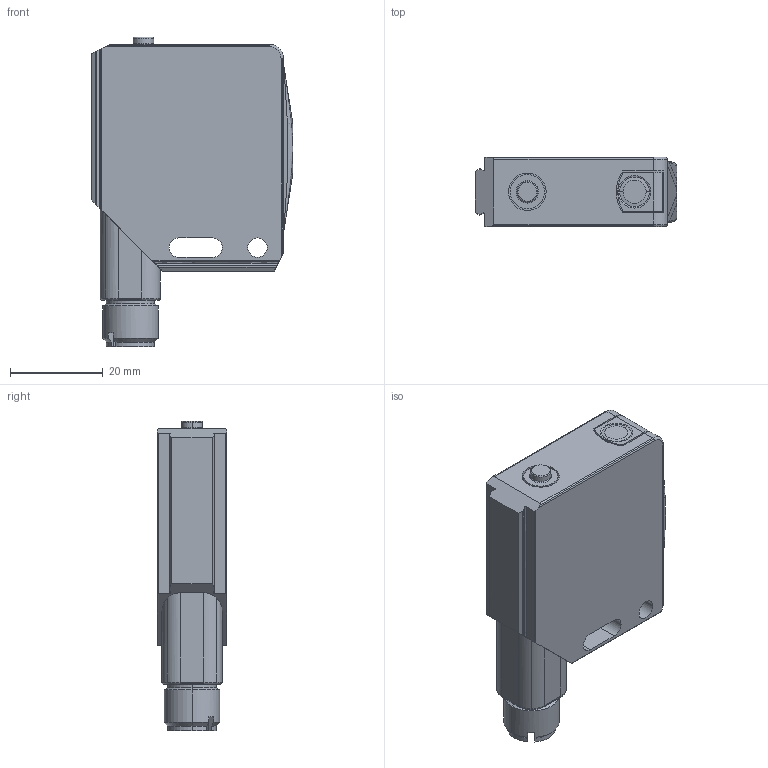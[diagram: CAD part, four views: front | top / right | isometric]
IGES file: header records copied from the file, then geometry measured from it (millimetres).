
Global section: file name: No Iges File Name specified; native system: AutoDesk Inventor R6.1; preprocessor: AutoDesk Inventor Iges Exporter R6.1; author: No Author specified; organization: No Organization specified; date: 20050825.113210; units: millimetre
Bounding box: 43.5 x 15 x 66.85 mm (x, y, z)
Volume: 30260.3 mm3; surface area: 8301.5 mm2
Topology: 1 solids, 1 shells, 180 faces, 466 edges, 293 vertices
Faces by surface type: cylinder 62, plane 57, revolution 24, cone 11, sphere 10, torus 8, bspline 8
